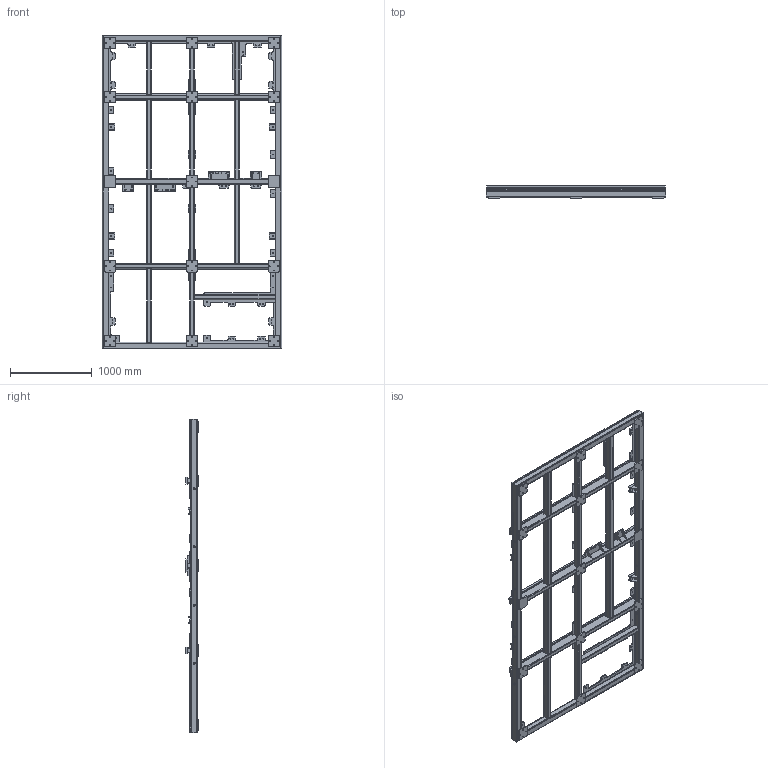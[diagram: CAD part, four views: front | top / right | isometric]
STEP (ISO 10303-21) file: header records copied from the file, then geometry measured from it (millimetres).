
FILE_DESCRIPTION(('STEP AP203'), '1');
FILE_NAME('ÒÏÏÔ1800.01.02.21.000 - Îñíîâàíèå öåíòðàëüíîå', '', ('UNSPECIFIED'), ('UNSPECIFIED'), 'C3D Converter', 'C3D Toolkit', '');
FILE_SCHEMA(('CONFIG_CONTROL_DESIGN'));
Length unit declared in the file: millimetre
Products named in the file (63): ТППФ1800.01.02.21.000; ТППФ1800.01.02.21.001; ТППФ1800.01.02.21.002; ТППФ1800.01.02.21.003; ТППФ1800.01.02.21.004; ТППФ1800.01.02.21.005; ТППФ1800.01.02.21.006; ТППФ1800.01.02.21.007; ТППФ1800.01.02.21.008; ТППФ1800.01.02.21.011; ТППФ1800.01.02.21.014; ТППФ1800.01.02.21.015; ТППФ1800.01.02.21.017; ТППФ1800.01.02.21.009; ТППФ1800.01.02.21.012; ТППФ1800.01.02.21.021; ТППФ1800.01.02.21.018; ТППФ1800.01.02.21.022; ТППФ1800.01.02.21.013; ТППФ1800.01.02.21.024; ТППФ1800.01.02.21.025; ТППФ1800.01.02.21.026; ТППФ1800.01.02.21.027; ТППФ1800.01.02.21.016; ТППФ1800.01.02.21.028; ТППФ1800.01.02.21.029
Assembly tree (87 placements, depth 2):
  ТППФ1800.01.02.21.000
    ТППФ1800.01.02.21.001
    ТППФ1800.01.02.21.001
    ТППФ1800.01.02.21.002
    ТППФ1800.01.02.21.002
    ТППФ1800.01.02.21.003  x2
    ТППФ1800.01.02.21.003
    ТППФ1800.01.02.21.004  x2
    ТППФ1800.01.02.21.005
    ТППФ1800.01.02.21.006  x4
    ТППФ1800.01.02.21.005
    ТППФ1800.01.02.21.006
    ТППФ1800.01.02.21.006
    ТППФ1800.01.02.21.004
    ТППФ1800.01.02.21.007
    ТППФ1800.01.02.21.008
    ТППФ1800.01.02.21.011
    ТППФ1800.01.02.21.014
    ТППФ1800.01.02.21.015
    ТППФ1800.01.02.21.015
    ТППФ1800.01.02.21.017
    ТППФ1800.01.02.21.017
    ТППФ1800.01.02.21.017
    ТППФ1800.01.02.21.017
    ТППФ1800.01.02.21.017
    ТППФ1800.01.02.21.017
    ТППФ1800.01.02.21.017
    ТППФ1800.01.02.21.017
    ТППФ1800.01.02.21.017
    ТППФ1800.01.02.21.017
    ТППФ1800.01.02.21.017
    ТППФ1800.01.02.21.017
    ТППФ1800.01.02.21.017
    ТППФ1800.01.02.21.017
    ТППФ1800.01.02.21.017
    ТППФ1800.01.02.21.009
    ТППФ1800.01.02.21.012  x2
    ТППФ1800.01.02.21.021
    ТППФ1800.01.02.21.021
    ТППФ1800.01.02.21.018  x8
    ТППФ1800.01.02.21.022
    ТППФ1800.01.02.21.022
    ТППФ1800.01.02.21.013
    ТППФ1800.01.02.21.013
    ТППФ1800.01.02.21.015
    ТППФ1800.01.02.21.015
    ТППФ1800.01.02.21.015
    ТППФ1800.01.02.21.015
    ТППФ1800.01.02.21.015
    ТППФ1800.01.02.21.015
    ТППФ1800.01.02.21.024
    ТППФ1800.01.02.21.015
    ТППФ1800.01.02.21.025  x6
    ТППФ1800.01.02.21.026
    ТППФ1800.01.02.21.026
    ТППФ1800.01.02.21.026
    ТППФ1800.01.02.21.026
    ТППФ1800.01.02.21.027  x8
    ТППФ1800.01.02.21.024
    ТППФ1800.01.02.21.024
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Bounding box: 2190 x 158 x 3830 mm (x, y, z)
Volume: 70113218 mm3; surface area: 21342973.5 mm2
Topology: 87 solids, 87 shells, 1584 faces, 4229 edges, 2814 vertices
Faces by surface type: plane 838, cylinder 730, cone 16
Full cylindrical faces by diameter (mm): 6.647 x28, 10.106 x186, 10.5 x95, 13.835 x19, 14.5 x4, 25 x16
Entity records: 48063 total; most frequent: DIRECTION 7051, CARTESIAN_POINT 7035, ORIENTED_EDGE 6302, EDGE_CURVE 3151, AXIS2_PLACEMENT_3D 2594, VERTEX_POINT 2306, EDGE_LOOP 2223, LINE 1863
